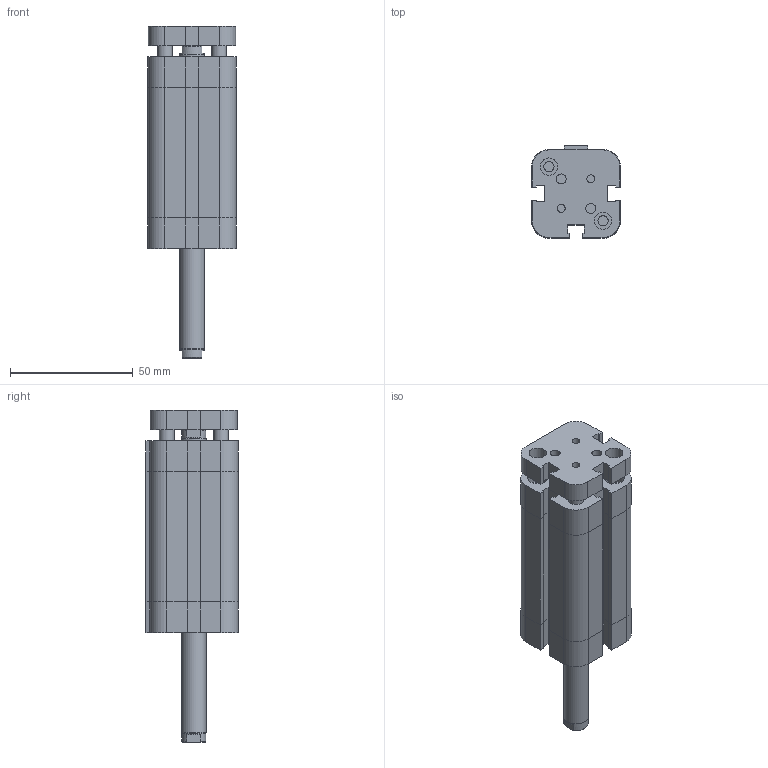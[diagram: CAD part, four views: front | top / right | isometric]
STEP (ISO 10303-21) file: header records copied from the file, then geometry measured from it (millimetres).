
FILE_DESCRIPTION((''),'2;1');
FILE_NAME('I:\Area Tecnica\Disegni\VARIE-3D\Componenti\EUROPE\15##_###_####_08_#\1581_20_0040_08_1.iam.stp','2009-04-20T15:30:28',(''),(''),'Autodesk Inventor 2009','Autodesk Inventor 2009','');
FILE_SCHEMA(('AUTOMOTIVE_DESIGN { 1 0 10303 214 1 1 1 1 }'));
Length unit declared in the file: millimetre
Products named in the file (3): 1581_20_0040_08_1; 1581_20_0040_08_1_C; 1561_20_0040_08_1_SA
Assembly tree (2 placements, depth 2):
  1581_20_0040_08_1
    1581_20_0040_08_1_C
    1561_20_0040_08_1_SA
Bounding box: 36 x 37.5 x 135 mm (x, y, z)
Volume: 102684.1 mm3; surface area: 31480.8 mm2
Topology: 2 solids, 2 shells, 209 faces, 490 edges, 306 vertices
Faces by surface type: plane 135, bspline 47, cylinder 21, cone 6
Full cylindrical faces by diameter (mm): 6 x2, 9.8 x2, 10 x1
Entity records: 6154 total; most frequent: CARTESIAN_POINT 1453, ORIENTED_EDGE 884, DIRECTION 862, EDGE_CURVE 442, VECTOR 340, LINE 340, VERTEX_POINT 290, EDGE_LOOP 276
